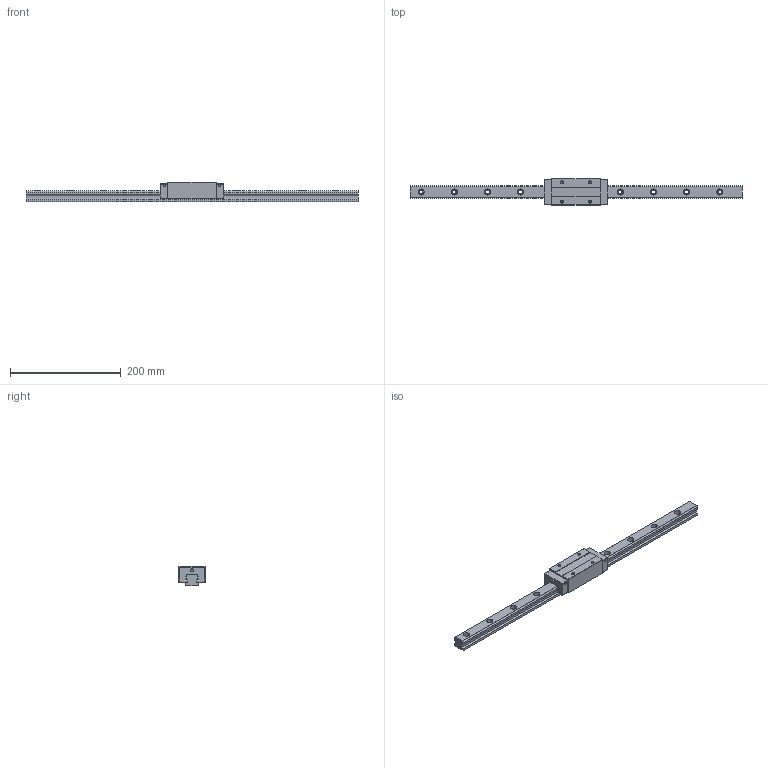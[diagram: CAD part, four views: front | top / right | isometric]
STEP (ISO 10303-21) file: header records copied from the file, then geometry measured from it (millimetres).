
FILE_DESCRIPTION (( 'STEP AP203' ), '1' );
FILE_NAME ('TRC25VE-SU.STEP', '2024-06-13T01:34:00', ( '' ), ( '' ), 'SwSTEP 2.0', 'SolidWorks 2022', '' );
FILE_SCHEMA (( 'CONFIG_CONTROL_DESIGN' ));
Length unit declared in the file: millimetre
Products named in the file (1): TRC25VE-SU
Bounding box: 600 x 48 x 36 mm (x, y, z)
Volume: 360052.8 mm3; surface area: 83312.1 mm2
Topology: 2 solids, 2 shells, 200 faces, 520 edges, 336 vertices
Faces by surface type: cylinder 96, plane 88, cone 16
Entity records: 6223 total; most frequent: DIRECTION 1114, CARTESIAN_POINT 1049, ORIENTED_EDGE 1024, EDGE_CURVE 512, AXIS2_PLACEMENT_3D 401, VERTEX_POINT 336, LINE 312, VECTOR 312
